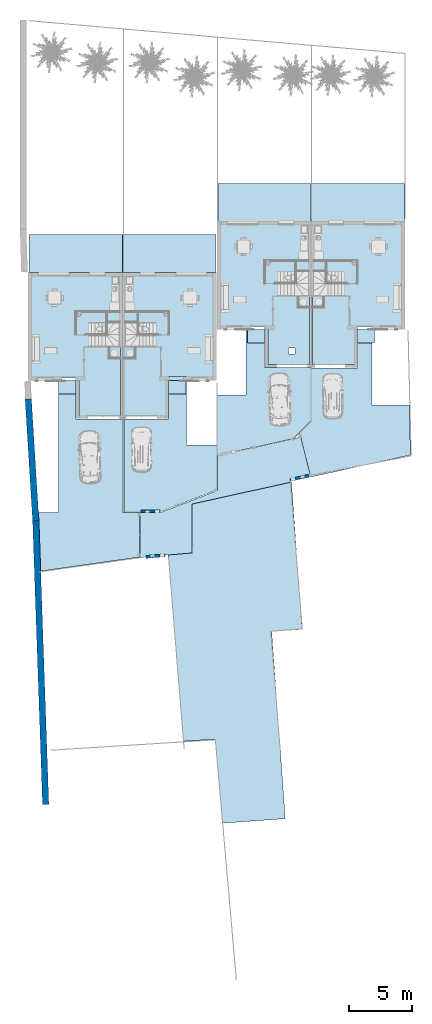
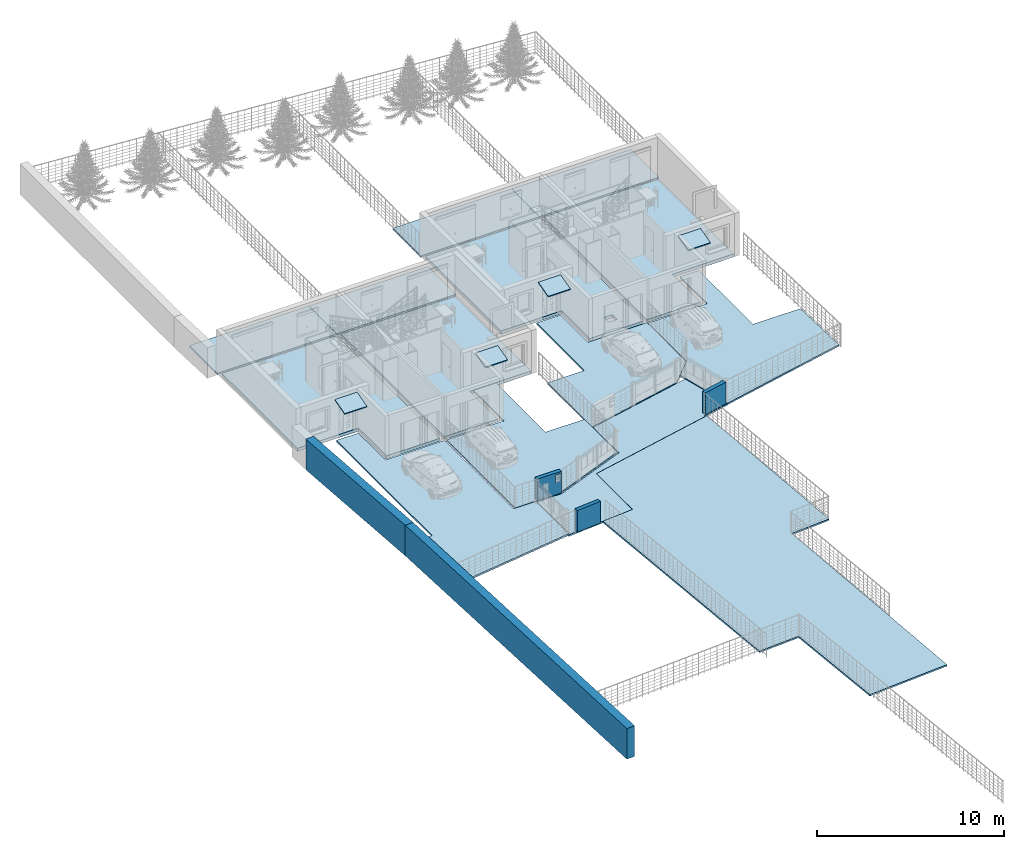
# One storey, part 1 of 33: 18 slabs, 5 walls, 4 openings, 4 elements without a shape of their own.
"""IFC2X3 building model written with IfcOpenShell, lengths in metres."""

from ifc_helpers import new_model, entity, si_unit, converted_unit, derived_unit, direction, frame, frame_2d, origin, place, context, subcontext, project, spatial, polyline, rectangle, outline, extrude, material, layer, layer_set, layer_usage, type_object, element, aggregate, save


model = new_model("IFC2X3")

# Units and contexts
model_context = context("Model", 3, precision=1e-05, world=origin(), true_north=direction((6.12303176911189e-17, 1.0)))
context_of_model = context(None, 3, precision=1e-05, world=origin(), true_north=direction((6.12303176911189e-17, 1.0)))
body_context = subcontext(model_context, "Body", "Model", "MODEL_VIEW")
ifc_project = project(units=[si_unit("LENGTHUNIT", "METRE"), si_unit("AREAUNIT", "SQUARE_METRE"), si_unit("VOLUMEUNIT", "CUBIC_METRE"), converted_unit("PLANEANGLEUNIT", "DEGREE", entity("IfcRatioMeasure", 0.0174532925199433), si_unit("PLANEANGLEUNIT", "RADIAN"), dimensions=[0, 0, 0, 0, 0, 0, 0]), si_unit("MASSUNIT", "GRAM", prefix="KILO"), si_unit("TIMEUNIT", "SECOND"), si_unit("FREQUENCYUNIT", "HERTZ"), si_unit("THERMODYNAMICTEMPERATUREUNIT", "DEGREE_CELSIUS"), derived_unit("THERMALTRANSMITTANCEUNIT", [(si_unit("MASSUNIT", "GRAM", prefix="KILO"), 1), (si_unit("THERMODYNAMICTEMPERATUREUNIT", "KELVIN"), -1), (si_unit("TIMEUNIT", "SECOND"), -3)]), derived_unit("VOLUMETRICFLOWRATEUNIT", [(si_unit("LENGTHUNIT", "METRE"), 3), (si_unit("TIMEUNIT", "SECOND"), -1)]), si_unit("ELECTRICCURRENTUNIT", "AMPERE"), si_unit("ELECTRICVOLTAGEUNIT", "VOLT"), si_unit("POWERUNIT", "WATT"), si_unit("FORCEUNIT", "NEWTON", prefix="KILO"), si_unit("ILLUMINANCEUNIT", "LUX"), si_unit("LUMINOUSFLUXUNIT", "LUMEN"), si_unit("LUMINOUSINTENSITYUNIT", "CANDELA"), si_unit("PRESSUREUNIT", "PASCAL")], contexts=[model_context, context_of_model])

# Site, building, storey
site_placement = place(None, origin())
site = spatial("IfcSite", under=ifc_project, at=site_placement, Name="Surface", CompositionType="ELEMENT")
building_placement = place(site_placement, origin())
building = spatial("IfcBuilding", under=site, at=building_placement, CompositionType="ELEMENT")
storey_placement = place(building_placement, origin())
storey = spatial("IfcBuildingStorey", under=building, at=storey_placement, Name="Plan des fondations  Maisons 1 et 2", CompositionType="ELEMENT", Elevation=0.0)

# Slabs
ifc_material_1 = material(Name="Métal")
ifc_layer_1 = layer(ifc_material_1, 0.1)
ifc_layer_set_1 = layer_set([ifc_layer_1], Name="Sol:Dalle Béton butume rouge - 10 cm")
ifc_layer_usage_1 = layer_usage(ifc_layer_set_1, "AXIS3", "POSITIVE", 0.0)
slab_1_placement = place(building_placement, origin())
element("IfcSlab", 1, at=slab_1_placement, inside=storey, material=ifc_layer_usage_1, Name="Sol:Dalle Béton butume rouge - 10 cm", ObjectType="Sol:Dalle Béton butume rouge - 10 cm", PredefinedType="FLOOR", context=body_context, shape_type="SweptSolid", body=[
    extrude(outline(polyline([(0.499009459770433, -5.37009377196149), (1.65900945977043, -5.37009377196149), (1.65900945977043, 0.439117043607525), (4.59437844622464, 0.439117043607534), (4.69450325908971, 4.39368824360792), (-3.1929661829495, 6.14229812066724), (-4.10116022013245, 2.60595914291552), (-3.15539657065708, 1.66019549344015), (-3.15539657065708, -2.47009377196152), (0.499009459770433, -2.47009377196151), (0.499009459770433, -5.37009377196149)])), frame((86.8921823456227, 78.4074301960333, 0.0), z_axis=(0.0, 0.0, -1.0), x_axis=(1.0, 0.0, 0.0)), (0.0, 0.0, 1.0), 0.1),
])
ifc_layer_usage_2 = layer_usage(ifc_layer_set_1, "AXIS3", "POSITIVE", 0.0)
slab_2_placement = place(building_placement, origin())
element("IfcSlab", 2, at=slab_2_placement, inside=storey, material=ifc_layer_usage_2, Name="Sol:Dalle Béton butume rouge - 10 cm", ObjectType="Sol:Dalle Béton butume rouge - 10 cm", PredefinedType="FLOOR", context=body_context, shape_type="SweptSolid", body=[
    extrude(outline(polyline([(-5.2659995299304, -3.65647938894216), (-0.491503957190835, -3.65647938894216), (-0.491503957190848, -1.37647938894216), (4.64326333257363, -1.37647938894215), (4.64326333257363, 0.103520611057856), (1.70381980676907, 0.103520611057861), (1.70381980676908, 3.76352061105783), (-2.50673666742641, 3.76352061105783), (-3.93842216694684, 2.3318351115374), (-5.2659995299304, -3.65647938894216)])), frame((79.9532651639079, 79.2342606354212, 0.0), z_axis=(0.0, 0.0, -1.0), x_axis=(0.0, 1.0, 0.0)), (0.0, 0.0, 1.0), 0.1),
])
ifc_layer_usage_3 = layer_usage(ifc_layer_set_1, "AXIS3", "POSITIVE", 0.0)
slab_3_placement = place(building_placement, origin())
element("IfcSlab", 3, at=slab_3_placement, inside=storey, material=ifc_layer_usage_3, Name="Sol:Dalle Béton butume rouge - 10 cm", ObjectType="Sol:Dalle Béton butume rouge - 10 cm", PredefinedType="FLOOR", context=body_context, shape_type="SweptSolid", body=[
    extrude(outline(polyline([(-5.41427827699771, -3.81797535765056), (1.96194066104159, -3.81797535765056), (1.96194066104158, -0.27513476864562), (5.3319406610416, -0.275134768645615), (5.3319406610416, 1.12486523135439), (-0.0730593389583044, 1.12486523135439), (-0.0730593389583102, 3.52702464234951), (-3.61308741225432, 3.5270246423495), (-5.41427827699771, -1.11755949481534), (-5.41427827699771, -3.81797535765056)])), frame((72.7697611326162, 74.8758160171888, 0.0), z_axis=(0.0, 0.0, -1.0), x_axis=(0.0, 1.0, 0.0)), (0.0, 0.0, 1.0), 0.1),
])
ifc_layer_usage_4 = layer_usage(ifc_layer_set_1, "AXIS3", "POSITIVE", 0.0)
slab_4_placement = place(building_placement, origin())
element("IfcSlab", 4, at=slab_4_placement, inside=storey, material=ifc_layer_usage_4, Name="Sol:Dalle Béton butume rouge - 10 cm", ObjectType="Sol:Dalle Béton butume rouge - 10 cm", PredefinedType="FLOOR", context=body_context, shape_type="SweptSolid", body=[
    extrude(outline(polyline([(-7.39710097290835, -4.02010814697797), (-2.70371891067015, -4.02010814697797), (-2.70371891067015, -2.20010814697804), (7.55651379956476, -2.20010814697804), (7.55651379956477, -0.831845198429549), (4.6615137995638, -0.831845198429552), (4.66151379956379, 2.82603074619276), (-2.70371891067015, 2.82603074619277), (-2.70371891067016, 4.22603074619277), (-6.2240785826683, 4.22603074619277), (-7.39710097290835, -4.02010814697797)])), frame((66.0064715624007, 72.181242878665, 0.0), z_axis=(0.0, 0.0, -1.0), x_axis=(0.0, 1.0, 0.0)), (0.0, 0.0, 1.0), 0.1),
])

# Roof, slab
roof_1_placement = place(storey_placement, frame((72.4946263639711, 78.8203090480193, 2.25)))
roof_1 = element("IfcRoof", 5, at=roof_1_placement, inside=storey, Name="Toit de base:Toit - 100 brun  gris", ObjectType="Toit de base:Toit - 100 brun  gris", ShapeType="NOTDEFINED")
ifc_material_2 = material(Name="gris")
ifc_layer_2 = layer(ifc_material_2, 0.05)
ifc_layer_set_2 = layer_set([ifc_layer_2], Name="Toit de base:Toit - 100 brun  gris")
slab_5_placement = place(roof_1_placement, origin())
slab_5 = element("IfcSlab", 6, at=slab_5_placement, material=ifc_layer_set_2, Name="Toit de base:Toit - 100 brun  gris", ObjectType="Toit de base:Toit - 100 brun  gris", PredefinedType="ROOF", context=body_context, shape_type="SweptSolid", body=[
    extrude(rectangle(XDim=1.10510310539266, YDim=1.38, at=frame_2d((0.0, 5.55111512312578e-17), x_axis=(0.0, -1.0))), frame((0.689999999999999, 0.533723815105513, 0.143010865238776), z_axis=(0.0, -0.258819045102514, 0.96592582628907), x_axis=(1.0, 0.0, 0.0)), (0.0, 0.258819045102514, 0.96592582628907), 0.051763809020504),
])
aggregate(roof_1, [slab_5])

roof_2_placement = place(storey_placement, frame((63.7946263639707, 78.8203090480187, 2.25)))
roof_2 = element("IfcRoof", 7, at=roof_2_placement, inside=storey, Name="Toit de base:Toit - 100 brun  gris", ObjectType="Toit de base:Toit - 100 brun  gris", ShapeType="NOTDEFINED")
slab_6_placement = place(roof_2_placement, origin())
slab_6 = element("IfcSlab", 8, at=slab_6_placement, material=ifc_layer_set_2, Name="Toit de base:Toit - 100 brun  gris", ObjectType="Toit de base:Toit - 100 brun  gris", PredefinedType="ROOF", context=body_context, shape_type="SweptSolid", body=[
    extrude(rectangle(XDim=1.10510310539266, YDim=1.37999999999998, at=frame_2d((0.0, -8.99280649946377e-15), x_axis=(0.0, -1.0))), frame((0.689999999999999, 0.53372381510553, 0.143010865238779), z_axis=(0.0, -0.258819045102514, 0.96592582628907), x_axis=(1.0, 0.0, 0.0)), (0.0, 0.258819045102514, 0.96592582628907), 0.051763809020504),
])
aggregate(roof_2, [slab_6])

# Slabs
ifc_layer_usage_5 = layer_usage(ifc_layer_set_1, "AXIS3", "POSITIVE", 0.0)
slab_7_placement = place(storey_placement, origin())
element("IfcSlab", 9, at=slab_7_placement, inside=storey, material=ifc_layer_usage_5, Name="Sol:Dalle Béton butume rouge - 10 cm", ObjectType="Sol:Dalle Béton butume rouge - 10 cm", PredefinedType="FLOOR", context=body_context, shape_type="SweptSolid", body=[
    extrude(rectangle(XDim=2.99999999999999, YDim=7.37826294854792, at=frame_2d((8.65973959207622e-15, 0.0), x_axis=(1.0, 0.0))), frame((72.5287578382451, 89.9077566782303, -0.05), z_axis=(0.0, 0.0, -1.0), x_axis=(0.0, 1.0, 0.0)), (0.0, 0.0, 1.0), 0.1),
])
ifc_layer_usage_6 = layer_usage(ifc_layer_set_1, "AXIS3", "POSITIVE", 0.0)
slab_8_placement = place(storey_placement, origin())
element("IfcSlab", 10, at=slab_8_placement, inside=storey, material=ifc_layer_usage_6, Name="Sol:Dalle Béton butume rouge - 10 cm", ObjectType="Sol:Dalle Béton butume rouge - 10 cm", PredefinedType="FLOOR", context=body_context, shape_type="SweptSolid", body=[
    extrude(rectangle(XDim=2.99999999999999, YDim=7.37826294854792, at=frame_2d((-8.65973959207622e-15, 0.0), x_axis=(1.0, 0.0))), frame((65.1404948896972, 89.9077566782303, -0.05), z_axis=(0.0, 0.0, -1.0), x_axis=(0.0, 1.0, 0.0)), (0.0, 0.0, 1.0), 0.1),
])
ifc_material_3 = material(Name="Béton")
ifc_layer_3 = layer(ifc_material_3, 0.1)
ifc_layer_set_3 = layer_set([ifc_layer_3], Name="Sol:Dalle Béton - 10 cm")
ifc_layer_usage_7 = layer_usage(ifc_layer_set_3, "AXIS3", "POSITIVE", 0.0)
slab_9_placement = place(building_placement, origin())
element("IfcSlab", 11, at=slab_9_placement, inside=storey, material=ifc_layer_usage_7, Name="Sol:Dalle Béton - 10 cm", ObjectType="Sol:Dalle Béton - 10 cm", PredefinedType="FLOOR", context=body_context, shape_type="SweptSolid", body=[
    extrude(outline(polyline([(-12.7059232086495, -5.61026625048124), (-1.04546583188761, -5.61026625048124), (-1.04546583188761, -3.20435196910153), (13.7545341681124, -3.20435196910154), (13.7545341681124, 1.79439519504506), (7.10663217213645, 1.89356418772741), (7.08329743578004, 4.40740677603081), (-7.66859266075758, 4.53716997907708), (-7.69760998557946, 2.59196184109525), (-11.5359404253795, 2.40473846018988), (-12.7059232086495, -5.61026625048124)])), frame((77.506552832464, 58.7968482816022, -0.05), z_axis=(0.0, 0.0, -1.0), x_axis=(0.0722871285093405, -0.997383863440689, 0.0)), (0.0, 0.0, 1.0), 0.1),
])

# Roof, slab
roof_3_placement = place(storey_placement, frame((87.3667857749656, 82.8600763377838, 2.25)))
roof_3 = element("IfcRoof", 12, at=roof_3_placement, inside=storey, Name="Toit de base:Toit - 100 brun  gris", ObjectType="Toit de base:Toit - 100 brun  gris", ShapeType="NOTDEFINED")
slab_10_placement = place(roof_3_placement, origin())
slab_10 = element("IfcSlab", 13, at=slab_10_placement, material=ifc_layer_set_2, Name="Toit de base:Toit - 100 brun  gris", ObjectType="Toit de base:Toit - 100 brun  gris", PredefinedType="ROOF", context=body_context, shape_type="SweptSolid", body=[
    extrude(rectangle(XDim=1.10510310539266, YDim=1.38, at=frame_2d((0.0, 5.55111512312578e-17), x_axis=(0.0, -1.0))), frame((0.689999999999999, 0.533723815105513, 0.143010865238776), z_axis=(0.0, -0.258819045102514, 0.96592582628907), x_axis=(1.0, 0.0, 0.0)), (0.0, 0.258819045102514, 0.96592582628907), 0.051763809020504),
])
aggregate(roof_3, [slab_10])

# Slabs
ifc_layer_usage_8 = layer_usage(ifc_layer_set_1, "AXIS3", "POSITIVE", 0.0)
slab_11_placement = place(storey_placement, origin())
element("IfcSlab", 14, at=slab_11_placement, inside=storey, material=ifc_layer_usage_8, Name="Sol:Dalle Béton butume rouge - 10 cm", ObjectType="Sol:Dalle Béton butume rouge - 10 cm", PredefinedType="FLOOR", context=body_context, shape_type="SweptSolid", body=[
    extrude(rectangle(XDim=2.99999999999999, YDim=7.37826294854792, at=frame_2d((-8.65973959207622e-15, 8.65973959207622e-15), x_axis=(1.0, 0.0))), frame((87.4009172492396, 93.9475239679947, -0.05), z_axis=(0.0, 0.0, -1.0), x_axis=(0.0, 1.0, 0.0)), (0.0, 0.0, 1.0), 0.1),
])
ifc_layer_usage_9 = layer_usage(ifc_layer_set_1, "AXIS3", "POSITIVE", 0.0)
slab_12_placement = place(building_placement, origin())
element("IfcSlab", 15, at=slab_12_placement, inside=storey, material=ifc_layer_usage_9, Name="Sol:Dalle Béton butume rouge - 10 cm", ObjectType="Sol:Dalle Béton butume rouge - 10 cm", PredefinedType="FLOOR", context=body_context, shape_type="SweptSolid", body=[
    extrude(outline(polyline([(-4.80034139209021, -6.54460177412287), (-1.26608503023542, -6.54460177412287), (-1.26608503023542, -4.94460177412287), (0.497862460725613, -0.396054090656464), (3.25564536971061, -0.396054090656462), (4.70579078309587, 6.14512915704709), (1.56238762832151, 6.92886758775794), (1.20018719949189, 5.29508703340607), (1.12662159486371, 5.29508703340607), (-0.576574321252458, -2.41912865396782), (-4.43940926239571, -2.41912865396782), (-4.80034139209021, -6.54460177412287)])), frame((76.7599321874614, 70.7242529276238, -0.05), z_axis=(0.0, 0.0, -1.0), x_axis=(0.0, 1.0, 0.0)), (0.0, 0.0, 1.0), 0.1),
])
ifc_layer_4 = layer(ifc_material_3, 0.2)
ifc_layer_set_4 = layer_set([ifc_layer_4], Name="Sol:Dalle Béton - 20 cm")
ifc_layer_usage_10 = layer_usage(ifc_layer_set_4, "AXIS3", "POSITIVE", 0.0)
slab_13_placement = place(building_placement, origin())
element("IfcSlab", 16, at=slab_13_placement, inside=storey, material=ifc_layer_usage_10, Name="Sol:Dalle Béton - 20 cm", ObjectType="Sol:Dalle Béton - 20 cm", PredefinedType="FLOOR", context=body_context, shape_type="SweptSolid", body=[
    extrude(outline(polyline([(-4.69333333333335, -3.46608764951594), (6.38666666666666, -3.46608764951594), (6.38666666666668, 3.62717529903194), (-1.69333333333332, 3.62717529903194), (-1.69333333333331, -0.161087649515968), (-4.69333333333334, -0.161087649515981), (-4.69333333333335, -3.46608764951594)])), frame((87.3078734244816, 85.8408573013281, 0.02), z_axis=(0.0, 0.0, -1.0), x_axis=(0.0, 1.0, 0.0)), (0.0, 0.0, 1.0), 0.2),
])
ifc_layer_usage_11 = layer_usage(ifc_layer_set_4, "AXIS3", "POSITIVE", 0.0)
slab_14_placement = place(storey_placement, origin())
element("IfcSlab", 17, at=slab_14_placement, inside=storey, material=ifc_layer_usage_11, Name="Sol:Dalle Béton - 20 cm", ObjectType="Sol:Dalle Béton - 20 cm", PredefinedType="FLOOR", context=body_context, shape_type="SweptSolid", body=[
    extrude(outline(polyline([(-4.69333333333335, -3.46608764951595), (6.38666666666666, -3.46608764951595), (6.38666666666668, 3.62717529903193), (-1.69333333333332, 3.62717529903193), (-1.69333333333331, -0.161087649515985), (-4.69333333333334, -0.161087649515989), (-4.69333333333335, -3.46608764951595)])), frame((72.4357140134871, 81.8010900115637, 0.02), z_axis=(0.0, 0.0, -1.0), x_axis=(0.0, 1.0, 0.0)), (0.0, 0.0, 1.0), 0.2),
])
ifc_layer_usage_12 = layer_usage(ifc_layer_set_4, "AXIS3", "POSITIVE", 0.0)
slab_15_placement = place(storey_placement, origin())
element("IfcSlab", 18, at=slab_15_placement, inside=storey, material=ifc_layer_usage_12, Name="Sol:Dalle Béton - 20 cm", ObjectType="Sol:Dalle Béton - 20 cm", PredefinedType="FLOOR", context=body_context, shape_type="SweptSolid", body=[
    extrude(outline(polyline([(-1.69333333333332, -3.62717529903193), (6.38666666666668, -3.62717529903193), (6.38666666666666, 3.46608764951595), (-4.69333333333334, 3.46608764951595), (-4.69333333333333, 0.161087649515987), (-1.69333333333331, 0.161087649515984), (-1.69333333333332, -3.62717529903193)])), frame((65.2335387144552, 81.8010900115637, 0.02), z_axis=(0.0, 0.0, -1.0), x_axis=(0.0, 1.0, 0.0)), (0.0, 0.0, 1.0), 0.2),
])

# Roof, slab
roof_4_placement = place(storey_placement, frame((78.7110189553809, 82.8600763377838, 2.25)))
roof_4 = element("IfcRoof", 19, at=roof_4_placement, inside=storey, Name="Toit de base:Toit - 100 brun  gris", ObjectType="Toit de base:Toit - 100 brun  gris", ShapeType="NOTDEFINED")
slab_16_placement = place(roof_4_placement, origin())
slab_16 = element("IfcSlab", 20, at=slab_16_placement, material=ifc_layer_set_2, Name="Toit de base:Toit - 100 brun  gris", ObjectType="Toit de base:Toit - 100 brun  gris", PredefinedType="ROOF", context=body_context, shape_type="SweptSolid", body=[
    extrude(rectangle(XDim=1.10510310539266, YDim=1.38, at=frame_2d((0.0, 5.55111512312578e-17), x_axis=(0.0, -1.0))), frame((0.689999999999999, 0.533723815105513, 0.143010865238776), z_axis=(0.0, -0.258819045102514, 0.96592582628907), x_axis=(1.0, 0.0, 0.0)), (0.0, 0.258819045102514, 0.96592582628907), 0.051763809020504),
])
aggregate(roof_4, [slab_16])

# Slab
ifc_layer_usage_13 = layer_usage(ifc_layer_set_1, "AXIS3", "POSITIVE", 0.0)
slab_17_placement = place(storey_placement, origin())
element("IfcSlab", 21, at=slab_17_placement, inside=storey, material=ifc_layer_usage_13, Name="Sol:Dalle Béton butume rouge - 10 cm", ObjectType="Sol:Dalle Béton butume rouge - 10 cm", PredefinedType="FLOOR", context=body_context, shape_type="SweptSolid", body=[
    extrude(rectangle(XDim=2.99999999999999, YDim=7.37826294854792, at=frame_2d((-8.65973959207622e-15, -8.65973959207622e-15), x_axis=(1.0, 0.0))), frame((80.0568874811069, 93.9475239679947, -0.05), z_axis=(0.0, 0.0, -1.0), x_axis=(0.0, 1.0, 0.0)), (0.0, 0.0, 1.0), 0.1),
])

# Slab, opening
ifc_layer_usage_14 = layer_usage(ifc_layer_set_4, "AXIS3", "POSITIVE", 0.0)
slab_18_placement = place(storey_placement, frame((76.5227560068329, 81.1475239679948, -0.18)))
slab_18 = element("IfcSlab", 22, at=slab_18_placement, inside=storey, material=ifc_layer_usage_14, Name="Sol:Dalle Béton - 20 cm", ObjectType="Sol:Dalle Béton - 20 cm", PredefinedType="FLOOR", context=body_context, shape_type="SweptSolid", body=[
    extrude(outline(polyline([(-3.54663147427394, 5.54000000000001), (-3.54663147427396, -5.54000000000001), (-0.241631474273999, -5.54000000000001), (-0.241631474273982, -2.53999999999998), (3.54663147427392, -2.53999999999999), (3.54663147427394, 5.54000000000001), (-3.54663147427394, 5.54000000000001)])), frame((3.54663147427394, 5.54000000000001, 0.2), z_axis=(0.0, 0.0, -1.0), x_axis=(-1.0, 0.0, 0.0)), (0.0, 0.0, 1.0), 0.2),
])
opening_1_placement = place(storey_placement, frame((76.5227560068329, 81.1475239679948, -0.18)))
element("IfcOpeningElement", 23, at=opening_1_placement, cuts=slab_18, ObjectType="Opening", context=body_context, shape_type="SweptSolid", body=[
    extrude(rectangle(XDim=0.500000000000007, YDim=0.500000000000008, at=frame_2d((-2.14457800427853, -4.46496540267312), x_axis=(0.0, -1.0))), frame((3.54663147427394, 5.54000000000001, 0.2), z_axis=(0.0, 0.0, -1.0), x_axis=(-1.0, 0.0, 0.0)), (0.0, 0.0, 1.0), 0.2),
])

# Wall, opening
ifc_material_4 = material(Name="Enduit blanc cassé2")
ifc_layer_5 = layer(ifc_material_4, 0.015)
ifc_material_5 = material(Name="Parpaing")
ifc_layer_6 = layer(ifc_material_5, 0.2)
ifc_layer_7 = layer(ifc_material_4, 0.015)
ifc_layer_set_5 = layer_set([ifc_layer_5, ifc_layer_6, ifc_layer_7], Name="Mur de base:Ext. Parpaing 20 + 2 x 1.5")
ifc_layer_usage_15 = layer_usage(ifc_layer_set_5, "AXIS2", "NEGATIVE", 0.115)
wall_type_1 = type_object("IfcWallType", Name="Mur de base:Ext. Parpaing 20 + 2 x 1.5", PredefinedType="STANDARD", material=ifc_layer_set_5)
wall_1_placement = place(storey_placement, frame((70.3036977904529, 69.576537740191, 0.0)))
wall_1 = element("IfcWallStandardCase", 24, at=wall_1_placement, inside=storey, type_object=wall_type_1, material=ifc_layer_usage_15, Name="Mur de base:Ext. Parpaing 20 + 2 x 1.5", ObjectType="Mur de base:Ext. Parpaing 20 + 2 x 1.5", context=body_context, shape_type="SweptSolid", body=[
    extrude(rectangle(XDim=1.50000000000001, YDim=0.23, at=frame_2d((0.750000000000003, 0.0), x_axis=(-1.0, 0.0))), origin(), (0.0, 0.0, 1.0), 1.41792877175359),
])
opening_2_placement = place(wall_1_placement, origin())
element("IfcOpeningElement", 25, at=opening_2_placement, cuts=wall_1, Name="Mur de base:Ext. Parpaing 20 + 2 x 1.5", ObjectType="Recess", context=body_context, shape_type="SweptSolid", body=[
    extrude(rectangle(XDim=0.500000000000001, YDim=0.349999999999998, at=frame_2d((0.0, 4.32986979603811e-15), x_axis=(1.0, 0.0))), frame((1.28499999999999, -0.115, 1.03740197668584), z_axis=(0.0, 1.0, 0.0), x_axis=(0.0, 0.0, -1.0)), (0.0, 0.0, 1.0), 0.219999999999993),
])

ifc_layer_usage_16 = layer_usage(ifc_layer_set_5, "AXIS2", "NEGATIVE", 0.115)
wall_2_placement = place(storey_placement, frame((83.5606866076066, 72.3760306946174, 0.0), z_axis=(0.0, 0.0, 1.0), x_axis=(-0.976296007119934, -0.216439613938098, 0.0)))
wall_2 = element("IfcWallStandardCase", 26, at=wall_2_placement, inside=storey, type_object=wall_type_1, material=ifc_layer_usage_16, Name="Mur de base:Ext. Parpaing 20 + 2 x 1.5", ObjectType="Mur de base:Ext. Parpaing 20 + 2 x 1.5", context=body_context, shape_type="SweptSolid", body=[
    extrude(rectangle(XDim=1.49999999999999, YDim=0.229999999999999, at=frame_2d((0.749999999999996, 6.45317133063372e-16), x_axis=(-1.0, 0.0))), origin(), (0.0, 0.0, 1.0), 1.41792877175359),
])
opening_3_placement = place(wall_2_placement, origin())
element("IfcOpeningElement", 27, at=opening_3_placement, cuts=wall_2, Name="Mur de base:Ext. Parpaing 20 + 2 x 1.5", ObjectType="Recess", context=body_context, shape_type="SweptSolid", body=[
    extrude(rectangle(XDim=0.500000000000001, YDim=0.350000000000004, at=frame_2d((0.0, -9.39526234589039e-15), x_axis=(1.0, 0.0))), frame((1.28499999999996, -0.114999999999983, 1.03740197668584), z_axis=(0.0, 1.0, 0.0), x_axis=(0.0, 0.0, -1.0)), (0.0, 0.0, 1.0), 0.219999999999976),
])

ifc_layer_usage_17 = layer_usage(ifc_layer_set_5, "AXIS2", "POSITIVE", -0.115)
wall_3_placement = place(storey_placement, frame((70.6940428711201, 65.9657934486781, 0.0), z_axis=(0.0, 0.0, 1.0), x_axis=(0.996194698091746, 0.0871557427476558, 0.0)))
wall_3 = element("IfcWallStandardCase", 28, at=wall_3_placement, inside=storey, type_object=wall_type_1, material=ifc_layer_usage_17, Name="Mur de base:Ext. Parpaing 20 + 2 x 1.5", ObjectType="Mur de base:Ext. Parpaing 20 + 2 x 1.5", context=body_context, shape_type="SweptSolid", body=[
    extrude(rectangle(XDim=1.50000000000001, YDim=0.230000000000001, at=frame_2d((0.750000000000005, 1.03389519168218e-15), x_axis=(-1.0, 0.0))), origin(), (0.0, 0.0, 1.0), 1.41792877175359),
])
opening_4_placement = place(wall_3_placement, origin())
element("IfcOpeningElement", 29, at=opening_4_placement, cuts=wall_3, Name="Mur de base:Ext. Parpaing 20 + 2 x 1.5", ObjectType="Recess", context=body_context, shape_type="SweptSolid", body=[
    extrude(rectangle(XDim=0.500000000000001, YDim=0.35, at=frame_2d((-4.3159920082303e-15, 1.38777878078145e-16), x_axis=(0.0, 1.0))), frame((1.28499999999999, -0.104999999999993, 1.03740197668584), z_axis=(0.0, 1.0, 0.0), x_axis=(1.0, 0.0, 0.0)), (0.0, 0.0, 1.0), 0.219999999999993),
])

# Walls
ifc_material_6 = material(Name="Mur par défaut")
ifc_layer_8 = layer(ifc_material_6, 0.5)
ifc_layer_set_6 = layer_set([ifc_layer_8], Name="Mur de base:Mur exterieure en pierre - Ext. 500 MM")
ifc_layer_usage_18 = layer_usage(ifc_layer_set_6, "AXIS2", "NEGATIVE", 0.25)
wall_type_2 = type_object("IfcWallType", Name="Mur de base:Mur exterieure en pierre - Ext. 500 MM", PredefinedType="STANDARD", material=ifc_layer_set_6)
wall_4_placement = place(storey_placement, frame((61.4102178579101, 78.4481390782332, -0.2), z_axis=(0.0, 0.0, 1.0), x_axis=(0.0614958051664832, -0.998107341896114, 0.0)))
element("IfcWallStandardCase", 30, at=wall_4_placement, inside=storey, type_object=wall_type_2, material=ifc_layer_usage_18, Name="Mur de base:Mur exterieure en pierre - Ext. 500 MM", ObjectType="Mur de base:Mur exterieure en pierre - Ext. 500 MM", context=body_context, shape_type="SweptSolid", body=[
    extrude(outline(polyline([(9.64574522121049, -0.249999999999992), (9.65240262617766, 0.250000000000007), (0.00787208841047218, 0.250000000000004), (0.0, -0.249999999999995), (9.64574522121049, -0.249999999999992)])), origin(), (0.0, 0.0, 1.0), 2.0),
])
ifc_layer_usage_19 = layer_usage(ifc_layer_set_6, "AXIS2", "NEGATIVE", 0.25)
wall_5_placement = place(storey_placement, frame((62.0034792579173, 68.8206542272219, -0.2), z_axis=(0.0, 0.0, 1.0), x_axis=(0.0348994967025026, -0.999390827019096, 0.0)))
element("IfcWallStandardCase", 31, at=wall_5_placement, inside=storey, type_object=wall_type_2, material=ifc_layer_usage_19, Name="Mur de base:Mur exterieure en pierre - Ext. 500 MM", ObjectType="Mur de base:Mur exterieure en pierre - Ext. 500 MM", context=body_context, shape_type="SweptSolid", body=[
    extrude(outline(polyline([(22.4033287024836, -0.250000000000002), (22.4033287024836, 0.250000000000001), (0.0, 0.250000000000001), (0.00665740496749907, -0.250000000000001), (22.4033287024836, -0.250000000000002)])), origin(), (0.0, 0.0, 1.0), 2.0),
])

save(model, "model.ifc")
